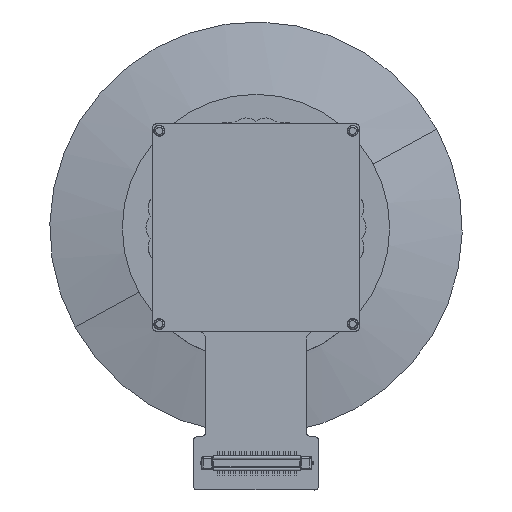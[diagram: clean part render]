
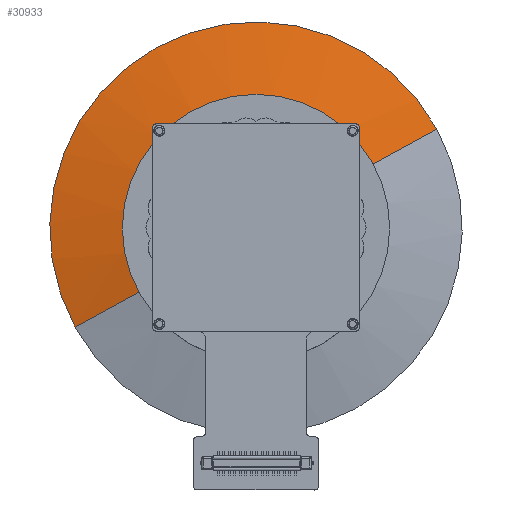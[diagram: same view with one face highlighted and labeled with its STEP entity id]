
A CAD part, top view. The second image highlights one B-rep face of the part: STEP entity #30933.
In plain terms, the highlighted conical face has half-angle 77.95 degrees and reference radius 0 mm.
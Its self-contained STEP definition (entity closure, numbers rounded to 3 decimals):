
#30905=AXIS2_PLACEMENT_3D('Cone Axis2P3D',#30902,#30903,#30904) ;
#30918=AXIS2_PLACEMENT_3D('Circle Axis2P3D',#30916,#30917,$) ;
#30902=CARTESIAN_POINT('Axis2P3D Location',(0.,0.,-23.46)) ;
#30907=CARTESIAN_POINT('Line Origine',(429122.862,234430.888,-104406.063)) ;
#30911=CARTESIAN_POINT('Vertex',(0.,0.,-23.46)) ;
#30913=CARTESIAN_POINT('Vertex',(11.511,6.288,-26.26)) ;
#30916=CARTESIAN_POINT('Axis2P3D Location',(0.,0.,-26.26)) ;
#30920=CARTESIAN_POINT('Vertex',(-11.511,-6.288,-26.26)) ;
#30923=CARTESIAN_POINT('Line Origine',(-429122.862,-234430.888,-104406.063)) ;
#30903=DIRECTION('Axis2P3D Direction',(0.,0.,-1.)) ;
#30904=DIRECTION('Axis2P3D XDirection',(-0.878,-0.479,0.)) ;
#30908=DIRECTION('Vector Direction',(0.858,0.469,-0.209)) ;
#30917=DIRECTION('Axis2P3D Direction',(0.,0.,-1.)) ;
#30924=DIRECTION('Vector Direction',(-0.858,-0.469,-0.209)) ;
#30909=VECTOR('Line Direction',#30908,1.) ;
#30925=VECTOR('Line Direction',#30924,1.) ;
#30929=ORIENTED_EDGE('',*,*,#30915,.T.) ;
#30930=ORIENTED_EDGE('',*,*,#30922,.T.) ;
#30931=ORIENTED_EDGE('',*,*,#30927,.F.) ;
#30933=ADVANCED_FACE('\X2\65CB8F6C66F29762\X0\.1',(#30932),#30906,.T.) ;
#30919=CIRCLE('generated circle',#30918,13.117) ;
#30906=CONICAL_SURFACE('Cone',#30905,0.,1.36) ;
#30915=EDGE_CURVE('',#30912,#30914,#30910,.T.) ;
#30922=EDGE_CURVE('',#30914,#30921,#30919,.F.) ;
#30927=EDGE_CURVE('',#30912,#30921,#30926,.T.) ;
#30928=EDGE_LOOP('',(#30929,#30930,#30931)) ;
#30932=FACE_OUTER_BOUND('',#30928,.T.) ;
#30910=LINE('Line',#30907,#30909) ;
#30926=LINE('Line',#30923,#30925) ;
#30912=VERTEX_POINT('',#30911) ;
#30914=VERTEX_POINT('',#30913) ;
#30921=VERTEX_POINT('',#30920) ;
